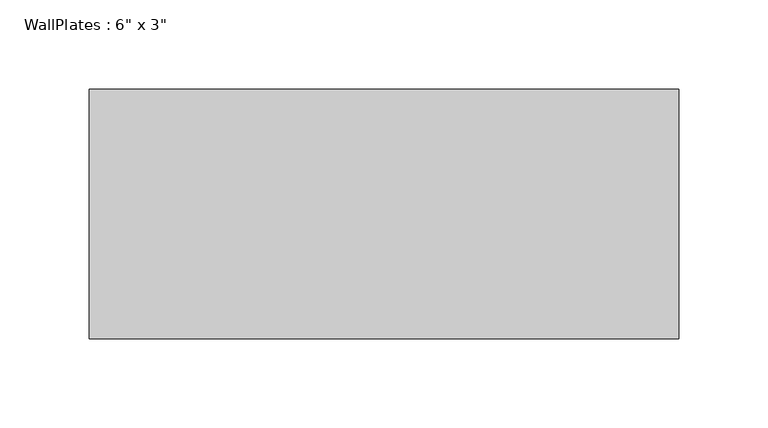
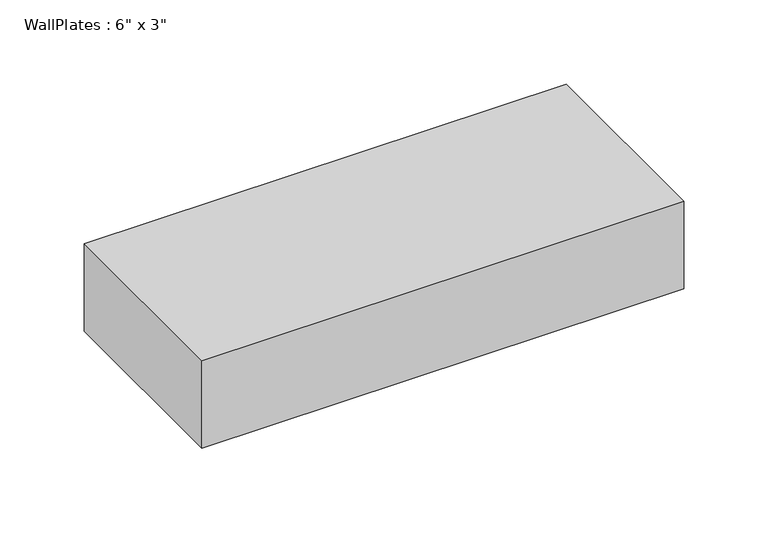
"""IFC4 building model written with IfcOpenShell, lengths in millimetres: beam geometry."""

from ifc_helpers import new_model, si_unit, frame, origin, place, context, project, spatial, polyline, outline, extrude, source, transform, mapped, element, save


def beam_6150974a(model_context):
    return source(origin(), model_context, "Body", "SweptSolid", [
        extrude(outline(polyline([(-165.09, -69.85), (-165.09, 69.85), (165.09, 69.85), (165.09, -69.85), (-165.09, -69.85)])), frame((0.0, 0.0, -31.75), z_axis=(0.0, 0.0, 1.0), x_axis=(1.0, 0.0, 0.0)), (0.0, 0.0, 1.0), 63.5),
    ])


if __name__ == "__main__":
    model = new_model("IFC4")
    model_context = context("Model", 3, world=origin())
    ifc_project = project(units=[si_unit("LENGTHUNIT", "METRE", prefix="MILLI")], contexts=[model_context])
    site = spatial("IfcSite", under=ifc_project)
    building = spatial("IfcBuilding", under=site)
    placement = place(None, origin())
    beam_shape = beam_6150974a(model_context)
    element("IfcBeam", 1, ObjectType="WallPlates : 6\" x 3\"", at=placement, inside=building, context=model_context, shape_type="MappedRepresentation", body=[
        mapped(beam_shape, transform((0.0, 0.0, 0.0), x_axis=(1.0, 0.0, 0.0), y_axis=(0.0, 1.0, 0.0), z_axis=(0.0, 0.0, 1.0))),
    ])
    save(model, "model.ifc")
